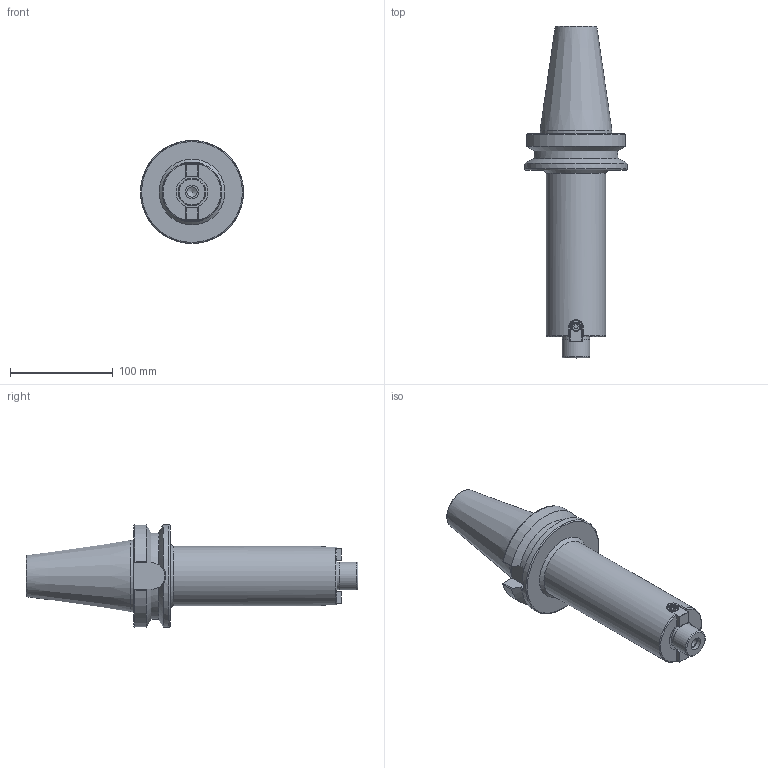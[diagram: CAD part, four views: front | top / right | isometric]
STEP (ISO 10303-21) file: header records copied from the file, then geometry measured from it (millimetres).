
FILE_DESCRIPTION(/* description */ (''),/* implementation_level */ '2;1');
FILE_NAME(/* name */ 'BT50-FMB27-200.stp',/* time_stamp */ '2025-10-07T10:37:52+03:00',/* author */ ('User'),/* organization */ (''),/* preprocessor_version */ 'ST-DEVELOPER v19.2',/* originating_system */ 'Autodesk Inventor 2024',/* authorisation */ '');
FILE_SCHEMA (('AUTOMOTIVE_DESIGN { 1 0 10303 214 3 1 1 }'));
Length unit declared in the file: millimetre
Products named in the file (4): BT50-FMB27-200; BT50-FMB40-100 правка; Сухарь; ANSI B18.3.1M - M5x0,8 x 10, BSHCSM
Assembly tree (5 placements, depth 2):
  BT50-FMB27-200
    BT50-FMB40-100 правка
    Сухарь  x2
    ANSI B18.3.1M - M5x0,8 x 10, BSHCSM  x2
Bounding box: 100 x 322.3 x 100 mm (x, y, z)
Volume: 901270.7 mm3; surface area: 86511.3 mm2
Topology: 5 solids, 5 shells, 152 faces, 351 edges, 221 vertices
Faces by surface type: plane 62, cylinder 47, cone 16, torus 15, sphere 8, bspline 4
Full cylindrical faces by diameter (mm): 4.134 x4, 5 x2, 8.5 x4, 10.106 x1, 12.7 x1, 20.752 x1, 25 x1, 26.3 x1, 27 x1, 58 x1, 69.85 x1, 100 x1
Entity records: 3820 total; most frequent: CARTESIAN_POINT 1048, DIRECTION 550, ORIENTED_EDGE 530, EDGE_CURVE 265, AXIS2_PLACEMENT_3D 218, VERTEX_POINT 171, EDGE_LOOP 128, LINE 114
